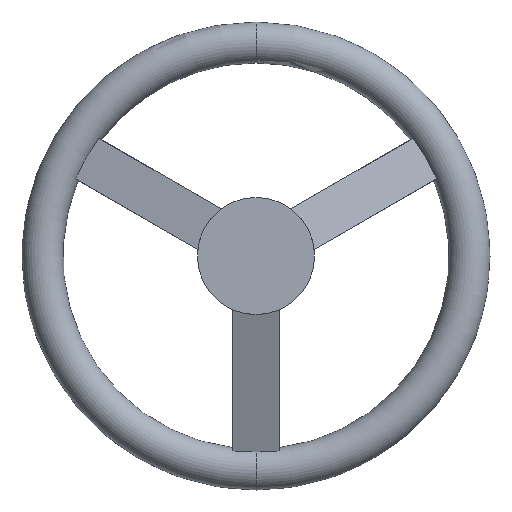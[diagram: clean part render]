
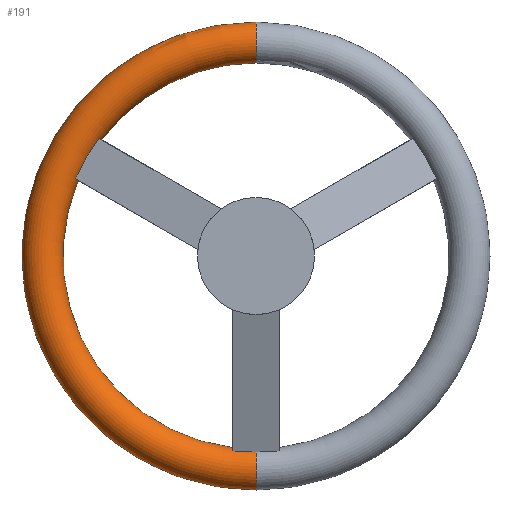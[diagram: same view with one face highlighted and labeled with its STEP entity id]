
A CAD part, front view. The second image highlights one B-rep face of the part: STEP entity #191.
In plain terms, the highlighted toroidal (fillet/blend) face has major radius 73 mm and minor radius 7 mm.
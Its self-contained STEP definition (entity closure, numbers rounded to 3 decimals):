
#5 = EDGE_CURVE ( 'NONE', #239, #873, #478, .T. ) ;
#11 = CARTESIAN_POINT ( 'NONE',  ( -52.758, 32.321, 39.697 ) ) ;
#39 = CARTESIAN_POINT ( 'NONE',  ( 0., 33., 0. ) ) ;
#52 = CARTESIAN_POINT ( 'NONE',  ( -61.081, 30.655, 26.028 ) ) ;
#57 = CARTESIAN_POINT ( 'NONE',  ( -60.91, 31.308, 25.929 ) ) ;
#70 = EDGE_CURVE ( 'NONE', #597, #133, #689, .T. ) ;
#71 = VERTEX_POINT ( 'NONE', #299 ) ;
#76 = CARTESIAN_POINT ( 'NONE',  ( 0., 33., 66. ) ) ;
#78 = AXIS2_PLACEMENT_3D ( 'NONE', #330, #883, #259 ) ;
#89 = AXIS2_PLACEMENT_3D ( 'NONE', #39, #905, #592 ) ;
#96 = VERTEX_POINT ( 'NONE', #327 ) ;
#98 = CARTESIAN_POINT ( 'NONE',  ( -53.75, 29.137, 40.27 ) ) ;
#106 = CIRCLE ( 'NONE', #946, 7. ) ;
#119 = CARTESIAN_POINT ( 'NONE',  ( -52.736, 33., 39.685 ) ) ;
#122 = ORIENTED_EDGE ( 'NONE', *, *, #875, .T. ) ;
#128 = ORIENTED_EDGE ( 'NONE', *, *, #70, .T. ) ;
#131 = CARTESIAN_POINT ( 'NONE',  ( -8., 29.723, -66.324 ) ) ;
#133 = VERTEX_POINT ( 'NONE', #615 ) ;
#136 = CARTESIAN_POINT ( 'NONE',  ( -60.844, 31.646, 25.891 ) ) ;
#141 = ORIENTED_EDGE ( 'NONE', *, *, #375, .F. ) ;
#146 = CARTESIAN_POINT ( 'NONE',  ( 0., 33., 0. ) ) ;
#149 = AXIS2_PLACEMENT_3D ( 'NONE', #246, #454, #1000 ) ;
#152 = CARTESIAN_POINT ( 'NONE',  ( 0., 33., -73. ) ) ;
#176 = CARTESIAN_POINT ( 'NONE',  ( -52.91, 31.308, 39.785 ) ) ;
#191 = ADVANCED_FACE ( 'NONE', ( #941 ), #756, .T. ) ;
#223 = CARTESIAN_POINT ( 'NONE',  ( -8., 31.644, -65.638 ) ) ;
#233 = DIRECTION ( 'NONE',  ( -1., 0., 0. ) ) ;
#239 = VERTEX_POINT ( 'NONE', #76 ) ;
#245 = EDGE_CURVE ( 'NONE', #71, #133, #994, .T. ) ;
#246 = CARTESIAN_POINT ( 'NONE',  ( 0., 33., 0. ) ) ;
#259 = DIRECTION ( 'NONE',  ( 0., 0., -1. ) ) ;
#261 = CARTESIAN_POINT ( 'NONE',  ( -52.736, 33., 39.685 ) ) ;
#297 = CARTESIAN_POINT ( 'NONE',  ( -61.75, 29.137, 26.414 ) ) ;
#299 = CARTESIAN_POINT ( 'NONE',  ( -60.736, 33., 25.828 ) ) ;
#310 = CARTESIAN_POINT ( 'NONE',  ( -60.758, 32.321, 25.841 ) ) ;
#316 = CARTESIAN_POINT ( 'NONE',  ( -8., 32.321, -65.538 ) ) ;
#327 = CARTESIAN_POINT ( 'NONE',  ( -53.75, 29.137, 40.27 ) ) ;
#330 = CARTESIAN_POINT ( 'NONE',  ( 0., 33., 73. ) ) ;
#336 = CARTESIAN_POINT ( 'NONE',  ( 0., 29.282, -67.069 ) ) ;
#338 = EDGE_CURVE ( 'NONE', #597, #771, #572, .T. ) ;
#339 = CARTESIAN_POINT ( 'NONE',  ( -53.439, 29.723, 40.09 ) ) ;
#344 = CARTESIAN_POINT ( 'NONE',  ( -8., 29.137, -66.684 ) ) ;
#366 = ORIENTED_EDGE ( 'NONE', *, *, #729, .T. ) ;
#375 = EDGE_CURVE ( 'NONE', #833, #239, #521, .T. ) ;
#376 = ORIENTED_EDGE ( 'NONE', *, *, #245, .F. ) ;
#380 = CARTESIAN_POINT ( 'NONE',  ( -60.636, 29.233, 28.856 ) ) ;
#395 = CARTESIAN_POINT ( 'NONE',  ( -61.187, 30.338, 26.089 ) ) ;
#426 = AXIS2_PLACEMENT_3D ( 'NONE', #532, #540, #769 ) ;
#448 = CARTESIAN_POINT ( 'NONE',  ( -60.736, 32.66, 25.828 ) ) ;
#454 = DIRECTION ( 'NONE',  ( 0., -1., 0. ) ) ;
#464 = CARTESIAN_POINT ( 'NONE',  ( -8., 30.339, -66.034 ) ) ;
#468 = B_SPLINE_CURVE_WITH_KNOTS ( 'NONE', 3,
 ( #261, #726, #11, #643, #176, #487, #813, #339, #573, #98 ),
 .UNSPECIFIED., .F., .F.,
 ( 4, 2, 2, 2, 4 ),
 ( 0.006, 0.007, 0.008, 0.009, 0.01 ),
 .UNSPECIFIED. ) ;
#477 = CARTESIAN_POINT ( 'NONE',  ( 0., 29.282, -67.069 ) ) ;
#478 = CIRCLE ( 'NONE', #869, 66. ) ;
#487 = CARTESIAN_POINT ( 'NONE',  ( -53.081, 30.655, 39.884 ) ) ;
#515 = ORIENTED_EDGE ( 'NONE', *, *, #338, .F. ) ;
#521 = CIRCLE ( 'NONE', #78, 7. ) ;
#532 = CARTESIAN_POINT ( 'NONE',  ( 0., 33., 0. ) ) ;
#538 = CARTESIAN_POINT ( 'NONE',  ( -56.746, 29.282, 35.851 ) ) ;
#540 = DIRECTION ( 'NONE',  ( 0., -1., 0. ) ) ;
#544 = CARTESIAN_POINT ( 'NONE',  ( -59.413, 29.282, 31.232 ) ) ;
#545 = CARTESIAN_POINT ( 'NONE',  ( -8., 31.307, -65.714 ) ) ;
#550 = CARTESIAN_POINT ( 'NONE',  ( -8., 32.66, -65.513 ) ) ;
#572 = B_SPLINE_CURVE_WITH_KNOTS ( 'NONE', 3,
 ( #344, #650, #964, #477 ),
 .UNSPECIFIED., .F., .F.,
 ( 4, 4 ),
 ( 0., 0.008 ),
 .UNSPECIFIED. ) ;
#573 = CARTESIAN_POINT ( 'NONE',  ( -53.586, 29.422, 40.175 ) ) ;
#592 = DIRECTION ( 'NONE',  ( 0., 0., -1. ) ) ;
#593 = VERTEX_POINT ( 'NONE', #297 ) ;
#597 = VERTEX_POINT ( 'NONE', #922 ) ;
#615 = CARTESIAN_POINT ( 'NONE',  ( -8., 33., -65.513 ) ) ;
#617 = CARTESIAN_POINT ( 'NONE',  ( -61.75, 29.137, 26.414 ) ) ;
#625 = CARTESIAN_POINT ( 'NONE',  ( -8., 29.421, -66.495 ) ) ;
#627 = CARTESIAN_POINT ( 'NONE',  ( -61.75, 29.137, 26.414 ) ) ;
#643 = CARTESIAN_POINT ( 'NONE',  ( -52.844, 31.646, 39.747 ) ) ;
#647 = ORIENTED_EDGE ( 'NONE', *, *, #5, .F. ) ;
#650 = CARTESIAN_POINT ( 'NONE',  ( -5.335, 29.233, -66.94 ) ) ;
#659 = VERTEX_POINT ( 'NONE', #1013 ) ;
#677 = B_SPLINE_CURVE_WITH_KNOTS ( 'NONE', 3,
 ( #627, #380, #544, #538, #856, #842 ),
 .UNSPECIFIED., .F., .F.,
 ( 4, 2, 4 ),
 ( 0.015, 0.023, 0.031 ),
 .UNSPECIFIED. ) ;
#681 = EDGE_CURVE ( 'NONE', #659, #771, #106, .T. ) ;
#686 = CARTESIAN_POINT ( 'NONE',  ( -60.736, 33., 25.828 ) ) ;
#689 = B_SPLINE_CURVE_WITH_KNOTS ( 'NONE', 3,
 ( #843, #625, #131, #464, #768, #545, #223, #316, #550, #861 ),
 .UNSPECIFIED., .F., .F.,
 ( 4, 2, 2, 2, 4 ),
 ( 0.002, 0.003, 0.004, 0.005, 0.006 ),
 .UNSPECIFIED. ) ;
#711 = EDGE_CURVE ( 'NONE', #593, #96, #677, .T. ) ;
#726 = CARTESIAN_POINT ( 'NONE',  ( -52.736, 32.66, 39.685 ) ) ;
#729 = EDGE_CURVE ( 'NONE', #71, #593, #1011, .T. ) ;
#745 = ORIENTED_EDGE ( 'NONE', *, *, #681, .T. ) ;
#756 = TOROIDAL_SURFACE ( 'NONE', #426, 73., 7. ) ;
#766 = CIRCLE ( 'NONE', #89, 80. ) ;
#768 = CARTESIAN_POINT ( 'NONE',  ( -8., 30.656, -65.912 ) ) ;
#769 = DIRECTION ( 'NONE',  ( 0., 0., -1. ) ) ;
#771 = VERTEX_POINT ( 'NONE', #336 ) ;
#786 = CARTESIAN_POINT ( 'NONE',  ( -61.439, 29.723, 26.234 ) ) ;
#793 = DIRECTION ( 'NONE',  ( 0., -1., 0. ) ) ;
#813 = CARTESIAN_POINT ( 'NONE',  ( -53.187, 30.338, 39.945 ) ) ;
#821 = EDGE_CURVE ( 'NONE', #873, #96, #468, .T. ) ;
#833 = VERTEX_POINT ( 'NONE', #884 ) ;
#842 = CARTESIAN_POINT ( 'NONE',  ( -53.75, 29.137, 40.27 ) ) ;
#843 = CARTESIAN_POINT ( 'NONE',  ( -8., 29.137, -66.684 ) ) ;
#856 = CARTESIAN_POINT ( 'NONE',  ( -55.302, 29.233, 38.093 ) ) ;
#861 = CARTESIAN_POINT ( 'NONE',  ( -8., 33., -65.513 ) ) ;
#869 = AXIS2_PLACEMENT_3D ( 'NONE', #146, #793, #930 ) ;
#873 = VERTEX_POINT ( 'NONE', #119 ) ;
#875 = EDGE_CURVE ( 'NONE', #833, #659, #766, .T. ) ;
#883 = DIRECTION ( 'NONE',  ( 1., 0., 0. ) ) ;
#884 = CARTESIAN_POINT ( 'NONE',  ( 0., 33., 80. ) ) ;
#905 = DIRECTION ( 'NONE',  ( 0., -1., 0. ) ) ;
#915 = ORIENTED_EDGE ( 'NONE', *, *, #821, .F. ) ;
#922 = CARTESIAN_POINT ( 'NONE',  ( -8., 29.137, -66.684 ) ) ;
#930 = DIRECTION ( 'NONE',  ( 0., 0., -1. ) ) ;
#941 = FACE_OUTER_BOUND ( 'NONE', #961, .T. ) ;
#943 = DIRECTION ( 'NONE',  ( 0., 0., 1. ) ) ;
#946 = AXIS2_PLACEMENT_3D ( 'NONE', #152, #233, #943 ) ;
#961 = EDGE_LOOP ( 'NONE', ( #141, #122, #745, #515, #128, #376, #366, #968, #915, #647 ) ) ;
#964 = CARTESIAN_POINT ( 'NONE',  ( -2.668, 29.282, -67.069 ) ) ;
#968 = ORIENTED_EDGE ( 'NONE', *, *, #711, .T. ) ;
#991 = CARTESIAN_POINT ( 'NONE',  ( -61.586, 29.422, 26.319 ) ) ;
#994 = CIRCLE ( 'NONE', #149, 66. ) ;
#1000 = DIRECTION ( 'NONE',  ( 0., 0., -1. ) ) ;
#1011 = B_SPLINE_CURVE_WITH_KNOTS ( 'NONE', 3,
 ( #686, #448, #310, #136, #57, #52, #395, #786, #991, #617 ),
 .UNSPECIFIED., .F., .F.,
 ( 4, 2, 2, 2, 4 ),
 ( 0.006, 0.007, 0.008, 0.009, 0.01 ),
 .UNSPECIFIED. ) ;
#1013 = CARTESIAN_POINT ( 'NONE',  ( 0., 33., -80. ) ) ;
